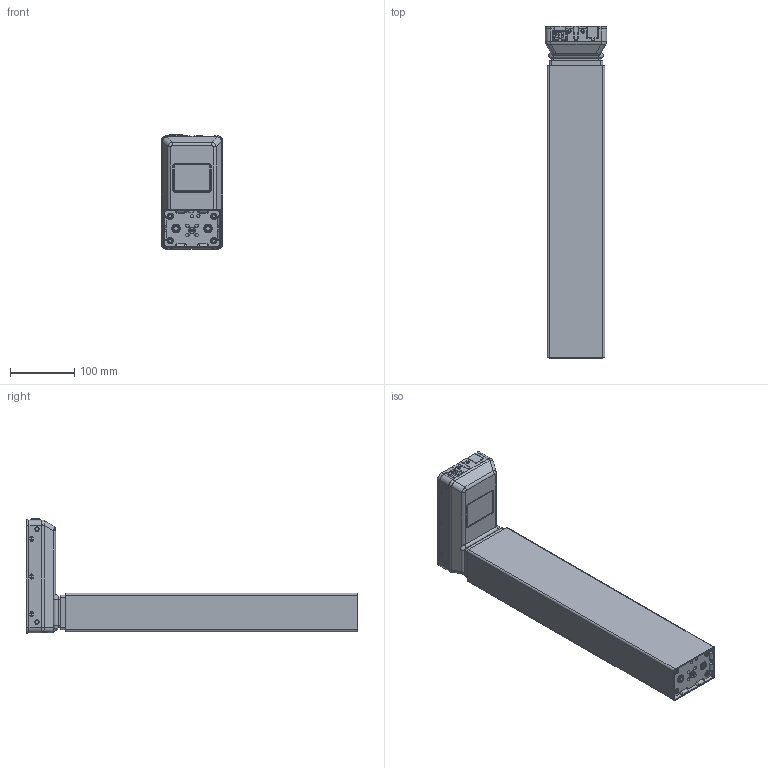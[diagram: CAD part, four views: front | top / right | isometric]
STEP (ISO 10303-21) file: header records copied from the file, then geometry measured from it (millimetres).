
FILE_DESCRIPTION((''),'2;1');
FILE_NAME('1064W8901-EX2_ASM','2020-12-03T12:49:40',('hga'),(''),'CREO PARAMETRIC BY PTC INC, 2019344','CREO PARAMETRIC BY PTC INC, 2019344','');
FILE_SCHEMA(('AUTOMOTIVE_DESIGN { 1 0 10303 214 1 1 1 1 }'));
Length unit declared in the file: millimetre
Products named in the file (5): 1064W8901-A-21-3_1; 1064W8901-A-21-1_1; 1064W8901-A-21-2_1; 1041W7906-A-00-1_1; 1064W8901-EX2_ASM
Assembly tree (4 placements, depth 2):
  1064W8901-EX2_ASM
    1064W8901-A-21-3_1
    1064W8901-A-21-1_1
    1064W8901-A-21-2_1
    1041W7906-A-00-1_1
Bounding box: 96.5 x 518 x 178.6 mm (x, y, z)
Volume: 6714253.6 mm3; surface area: 454643 mm2
Topology: 4 solids, 9 shells, 991 faces, 2741 edges, 1789 vertices
Faces by surface type: plane 434, cylinder 393, torus 78, bspline 62, sphere 14, cone 10
Entity records: 38923 total; most frequent: CARTESIAN_POINT 12549, ORIENTED_EDGE 5450, DIRECTION 5055, EDGE_CURVE 2725, AXIS2_PLACEMENT_3D 1841, VERTEX_POINT 1789, VECTOR 1373, LINE 1373
